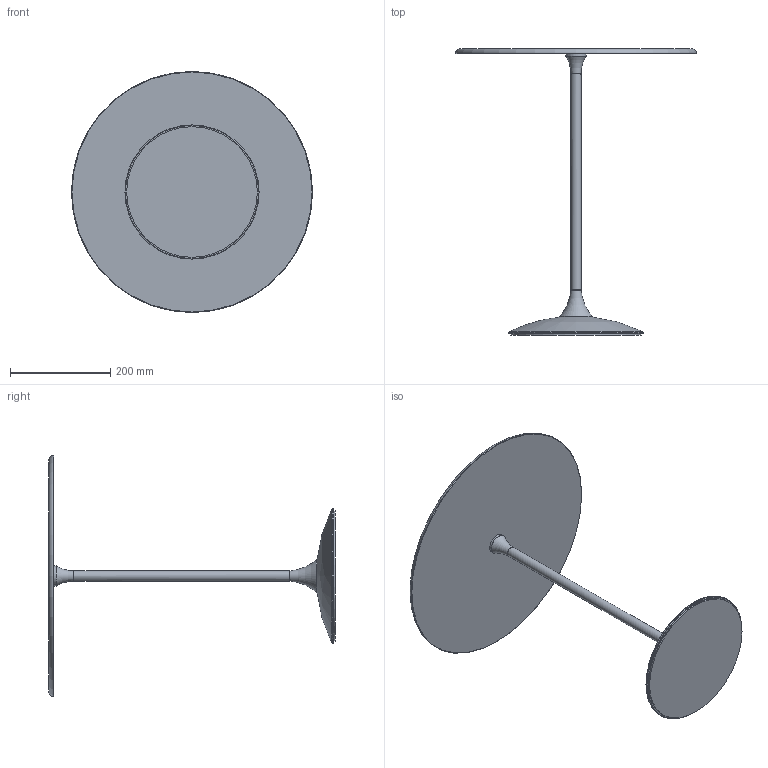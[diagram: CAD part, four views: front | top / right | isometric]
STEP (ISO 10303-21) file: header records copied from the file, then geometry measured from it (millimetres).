
FILE_DESCRIPTION((''),'2;1');
FILE_NAME('C:\AutodeskVault\AreaLavoro\Progetti\SoVeT Italia\2. Tavolini_Coffee tables\Tulip\Web file\Tulip Web\P4608.stp','2012-06-14T17:27:04',('Gianluca'),('So.Ve.T. s.r.l.'),'Autodesk Inventor 2013','Autodesk Inventor 2013','IL PROGETTO E'' DI ESCLUSIVA PROPRIETA'' DELLA SO.VE.T. srl. E'' VIETATA OGNI RIPRODUZIONE TOTALE O PARZIALE E QUALSIASI UTILIZZO NON AUTORIZZATO. ');
FILE_SCHEMA(('AUTOMOTIVE_DESIGN { 1 0 10303 214 1 1 1 1 }'));
Length unit declared in the file: millimetre
Products named in the file (1): P4608 LCTR Contorno semplificato
Bounding box: 480 x 570.45 x 480 mm (x, y, z)
Volume: 3268728.6 mm3; surface area: 524055 mm2
Topology: 1 solids, 1 shells, 26 faces, 51 edges, 30 vertices
Faces by surface type: cone 7, torus 7, plane 6, cylinder 5, bspline 1
Full cylindrical faces by diameter (mm): 20 x1, 40 x1, 60 x1, 260 x1, 267 x1
Entity records: 614 total; most frequent: CARTESIAN_POINT 102, DIRECTION 102, AXIS2_PLACEMENT_3D 51, ORIENTED_EDGE 50, EDGE_LOOP 50, STYLED_ITEM 27, FACE_OUTER_BOUND 26, ADVANCED_FACE 26
